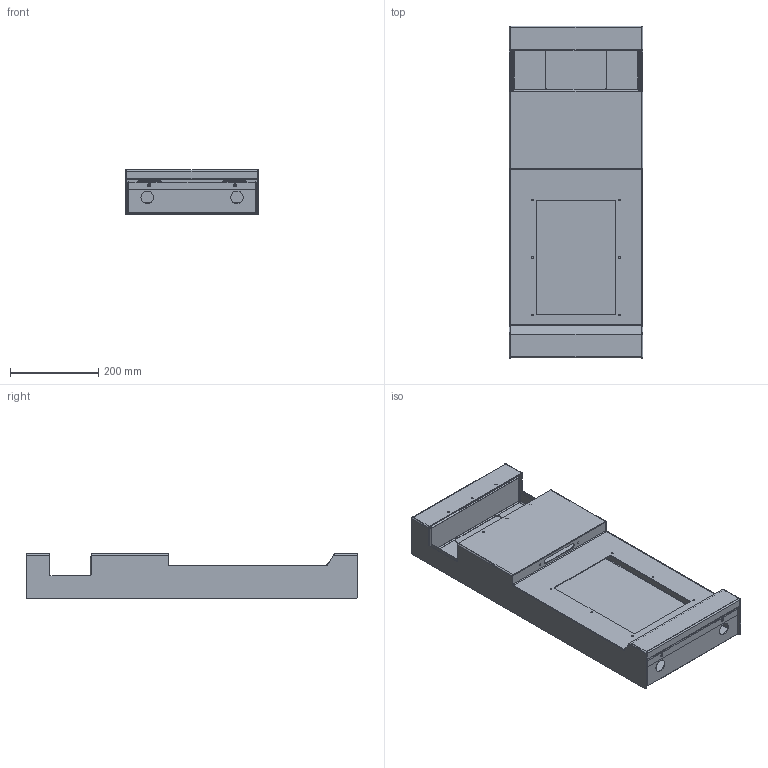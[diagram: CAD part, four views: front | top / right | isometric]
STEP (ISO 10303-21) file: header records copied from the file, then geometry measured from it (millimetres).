
FILE_DESCRIPTION (( 'STEP AP203' ), '1' );
FILE_NAME ('cad-108_CB2-a_dwg.STEP', '2019-05-03T01:23:23', ( '' ), ( '' ), 'SwSTEP 2.0', 'SolidWorks 2018', '' );
FILE_SCHEMA (( 'CONFIG_CONTROL_DESIGN' ));
Length unit declared in the file: inch
Products named in the file (1): cad-108_CB2-a_dwg
Bounding box: 302.26 x 751.84 x 101.72 mm (x, y, z)
Volume: 1215046.6 mm3; surface area: 1363655.9 mm2
Topology: 13 solids, 13 shells, 693 faces, 1743 edges, 1080 vertices
Faces by surface type: plane 356, cylinder 244, cone 67, bspline 26
Entity records: 22004 total; most frequent: CARTESIAN_POINT 5111, DIRECTION 3579, ORIENTED_EDGE 3486, EDGE_CURVE 1743, AXIS2_PLACEMENT_3D 1312, VERTEX_POINT 1080, LINE 955, VECTOR 955
